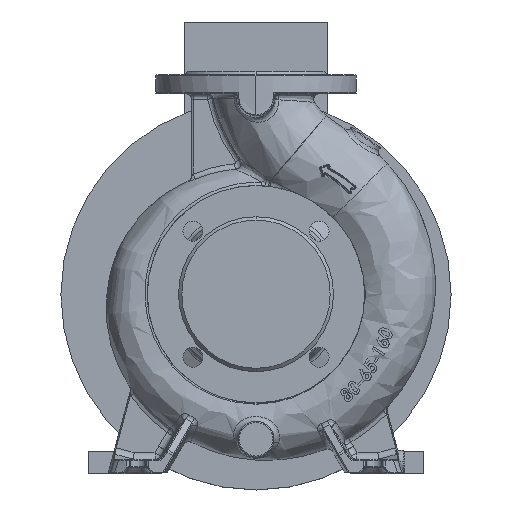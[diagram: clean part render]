
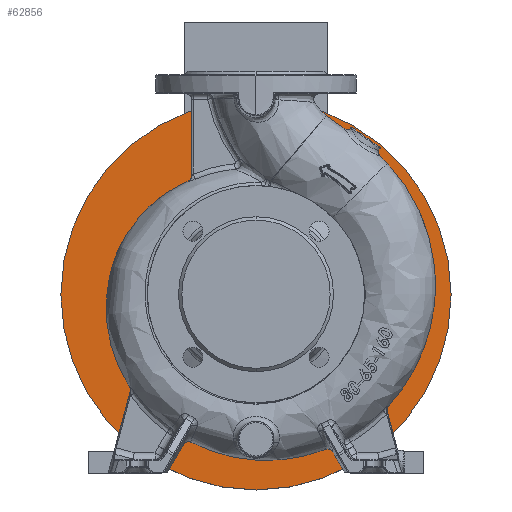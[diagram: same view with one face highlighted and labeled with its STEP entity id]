
A CAD part, top view. The second image highlights one B-rep face of the part: STEP entity #62856.
In plain terms, the highlighted planar face has unit normal (0, 0, 1).
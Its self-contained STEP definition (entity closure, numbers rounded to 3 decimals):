
#2302 = VERTEX_POINT ( 'NONE', #32864 ) ;
#2647 = DIRECTION ( 'NONE',  ( -1., 0., 0. ) ) ;
#3221 = CARTESIAN_POINT ( 'NONE',  ( 175., 0., -221.3 ) ) ;
#5263 = AXIS2_PLACEMENT_3D ( 'NONE', #14622, #24132, #19673 ) ;
#7576 = CARTESIAN_POINT ( 'NONE',  ( 0., 0., -221.3 ) ) ;
#8301 = VERTEX_POINT ( 'NONE', #29184 ) ;
#8399 = DIRECTION ( 'NONE',  ( 1., 0., 0. ) ) ;
#8584 = EDGE_CURVE ( 'NONE', #8301, #12487, #25577, .T. ) ;
#8722 = EDGE_CURVE ( 'NONE', #34997, #2302, #46749, .T. ) ;
#11278 = DIRECTION ( 'NONE',  ( 0., 0., 1. ) ) ;
#12487 = VERTEX_POINT ( 'NONE', #3221 ) ;
#13568 = ORIENTED_EDGE ( 'NONE', *, *, #57798, .T. ) ;
#14622 = CARTESIAN_POINT ( 'NONE',  ( 0., 0., -221.3 ) ) ;
#14718 = ORIENTED_EDGE ( 'NONE', *, *, #8584, .T. ) ;
#18854 = AXIS2_PLACEMENT_3D ( 'NONE', #36041, #11278, #31138 ) ;
#19673 = DIRECTION ( 'NONE',  ( 1., 0., 0. ) ) ;
#21667 = CARTESIAN_POINT ( 'NONE',  ( 0., 105., -221.3 ) ) ;
#21853 = FACE_BOUND ( 'NONE', #41903, .T. ) ;
#24132 = DIRECTION ( 'NONE',  ( 0., 0., 1. ) ) ;
#25577 = CIRCLE ( 'NONE', #46520, 175. ) ;
#25991 = ORIENTED_EDGE ( 'NONE', *, *, #8722, .F. ) ;
#27572 = CARTESIAN_POINT ( 'NONE',  ( 0., 0., -221.3 ) ) ;
#29184 = CARTESIAN_POINT ( 'NONE',  ( -175., 0., -221.3 ) ) ;
#31138 = DIRECTION ( 'NONE',  ( 1., 0., 0. ) ) ;
#32864 = CARTESIAN_POINT ( 'NONE',  ( 105., 0., -221.3 ) ) ;
#34997 = VERTEX_POINT ( 'NONE', #44624 ) ;
#36041 = CARTESIAN_POINT ( 'NONE',  ( 0., 0., -221.3 ) ) ;
#36223 = ORIENTED_EDGE ( 'NONE', *, *, #36688, .F. ) ;
#36688 = EDGE_CURVE ( 'NONE', #2302, #34997, #40713, .T. ) ;
#40474 = EDGE_LOOP ( 'NONE', ( #13568, #14718 ) ) ;
#40713 = CIRCLE ( 'NONE', #18854, 105. ) ;
#41903 = EDGE_LOOP ( 'NONE', ( #36223, #25991 ) ) ;
#42233 = DIRECTION ( 'NONE',  ( 0., 0., 1. ) ) ;
#44624 = CARTESIAN_POINT ( 'NONE',  ( -105., 0., -221.3 ) ) ;
#45965 = DIRECTION ( 'NONE',  ( 0., 0., -1. ) ) ;
#46520 = AXIS2_PLACEMENT_3D ( 'NONE', #27572, #46820, #56602 ) ;
#46747 = AXIS2_PLACEMENT_3D ( 'NONE', #7576, #42233, #8399 ) ;
#46749 = CIRCLE ( 'NONE', #5263, 105. ) ;
#46820 = DIRECTION ( 'NONE',  ( 0., 0., 1. ) ) ;
#49070 = FACE_OUTER_BOUND ( 'NONE', #40474, .T. ) ;
#49340 = AXIS2_PLACEMENT_3D ( 'NONE', #21667, #45965, #2647 ) ;
#49780 = PLANE ( 'NONE',  #49340 ) ;
#56602 = DIRECTION ( 'NONE',  ( 1., 0., 0. ) ) ;
#57798 = EDGE_CURVE ( 'NONE', #12487, #8301, #62138, .T. ) ;
#62138 = CIRCLE ( 'NONE', #46747, 175. ) ;
#62856 = ADVANCED_FACE ( 'NONE', ( #21853, #49070 ), #49780, .F. ) ;
